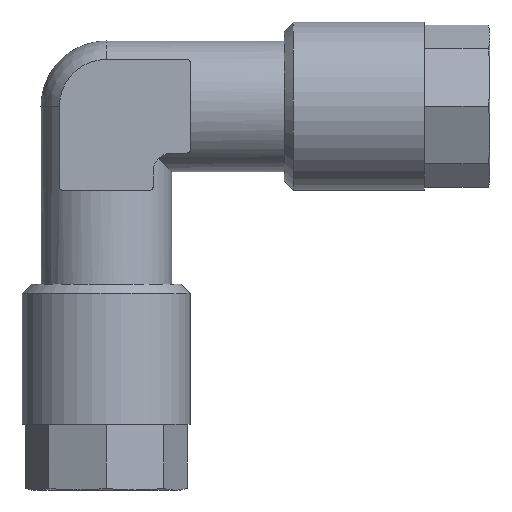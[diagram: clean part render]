
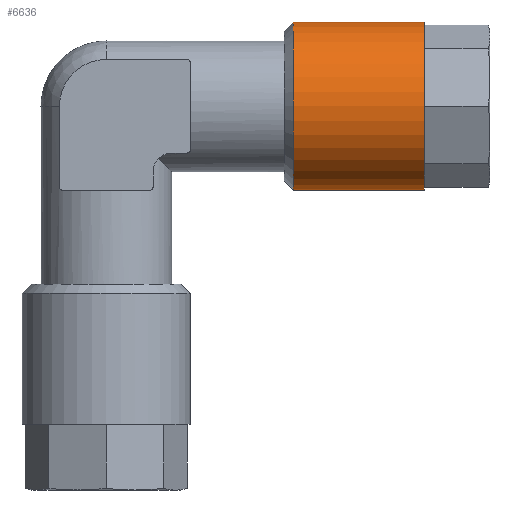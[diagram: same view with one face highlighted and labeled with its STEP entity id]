
A CAD part, front view. The second image highlights one B-rep face of the part: STEP entity #6636.
In plain terms, the highlighted cylindrical face has radius 4.5 mm (diameter 9 mm), a full revolution.
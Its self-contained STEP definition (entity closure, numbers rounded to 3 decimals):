
#2673=ORIENTED_EDGE('',*,*,#3149,.F.);
#2674=ORIENTED_EDGE('',*,*,#3150,.T.);
#2836=CIRCLE('',#6460,4.5);
#2837=CIRCLE('',#6462,4.5);
#2961=VERTEX_POINT('',#6178);
#2962=VERTEX_POINT('',#6181);
#3149=EDGE_CURVE('',#2961,#2961,#2836,.T.);
#3150=EDGE_CURVE('',#2962,#2962,#2837,.T.);
#3301=EDGE_LOOP('',(#2673));
#3302=EDGE_LOOP('',(#2674));
#3448=FACE_BOUND('',#3301,.T.);
#3449=FACE_BOUND('',#3302,.T.);
#3860=DIRECTION('',(0.,1.,0.));
#3861=DIRECTION('',(0.,0.,-4.5));
#3862=DIRECTION('',(0.,1.,0.));
#3863=DIRECTION('',(1.,0.,0.));
#3864=DIRECTION('',(0.,1.,0.));
#3865=DIRECTION('',(0.,0.,4.5));
#6178=CARTESIAN_POINT('',(26.989,22.095,-4.5));
#6179=CARTESIAN_POINT('',(26.989,22.095,0.));
#6180=CARTESIAN_POINT('',(26.989,15.095,0.));
#6181=CARTESIAN_POINT('',(26.989,15.095,4.5));
#6182=CARTESIAN_POINT('',(26.989,15.095,0.));
#6460=AXIS2_PLACEMENT_3D('',#6179,#3860,#3861);
#6461=AXIS2_PLACEMENT_3D('',#6180,#3862,#3863);
#6462=AXIS2_PLACEMENT_3D('',#6182,#3864,#3865);
#6558=CYLINDRICAL_SURFACE('',#6461,4.5);
#6636=ADVANCED_FACE('',(#3448,#3449),#6558,.T.);
